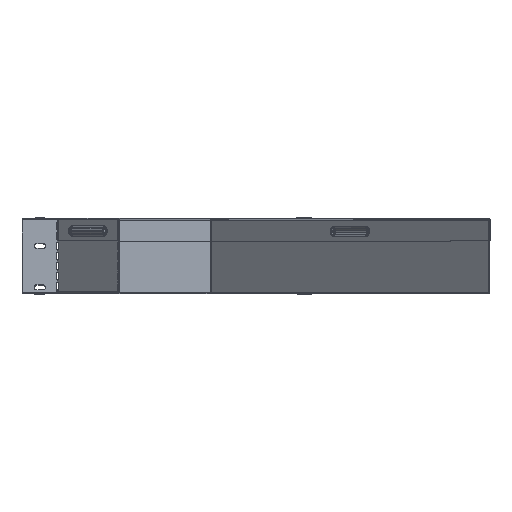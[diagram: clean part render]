
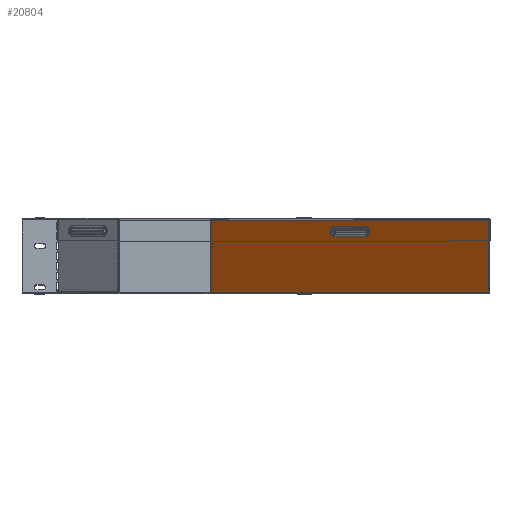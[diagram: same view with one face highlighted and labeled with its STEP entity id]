
A CAD part, top view. The second image highlights one B-rep face of the part: STEP entity #20804.
In plain terms, the highlighted planar face has unit normal (-0.707, 0, 0.707).
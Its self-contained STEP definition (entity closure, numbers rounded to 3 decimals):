
#43 = LINE ( 'NONE', #20308, #12756 ) ;
#541 = DIRECTION ( 'NONE',  ( 0.707, 0., 0.707 ) ) ;
#549 = ORIENTED_EDGE ( 'NONE', *, *, #3312, .F. ) ;
#1010 = PLANE ( 'NONE',  #16513 ) ;
#1339 = LINE ( 'NONE', #17731, #12998 ) ;
#1509 = CIRCLE ( 'NONE', #10832, 6.917 ) ;
#1863 = ORIENTED_EDGE ( 'NONE', *, *, #2911, .T. ) ;
#2230 = FACE_BOUND ( 'NONE', #5713, .T. ) ;
#2504 = DIRECTION ( 'NONE',  ( 0., 1., 0. ) ) ;
#2735 = EDGE_CURVE ( 'NONE', #20128, #15964, #20532, .T. ) ;
#2911 = EDGE_CURVE ( 'NONE', #20128, #5262, #13826, .T. ) ;
#3138 = CARTESIAN_POINT ( 'NONE',  ( 105.721, 83.1, -148.148 ) ) ;
#3312 = EDGE_CURVE ( 'NONE', #15964, #4494, #1339, .T. ) ;
#3823 = FACE_OUTER_BOUND ( 'NONE', #21986, .T. ) ;
#3876 = DIRECTION ( 'NONE',  ( 0., 1., 0. ) ) ;
#4067 = CARTESIAN_POINT ( 'NONE',  ( 105.721, 76.183, -148.148 ) ) ;
#4494 = VERTEX_POINT ( 'NONE', #18619 ) ;
#4955 = ORIENTED_EDGE ( 'NONE', *, *, #8252, .F. ) ;
#5262 = VERTEX_POINT ( 'NONE', #13137 ) ;
#5390 = CIRCLE ( 'NONE', #16475, 6.917 ) ;
#5435 = VERTEX_POINT ( 'NONE', #13271 ) ;
#5471 = EDGE_CURVE ( 'NONE', #20659, #5706, #1509, .T. ) ;
#5706 = VERTEX_POINT ( 'NONE', #4067 ) ;
#5713 = EDGE_LOOP ( 'NONE', ( #6281, #8164, #9300, #20323 ) ) ;
#6281 = ORIENTED_EDGE ( 'NONE', *, *, #5471, .F. ) ;
#6370 = CARTESIAN_POINT ( 'NONE',  ( 314.123, 1., 60.255 ) ) ;
#8164 = ORIENTED_EDGE ( 'NONE', *, *, #14845, .F. ) ;
#8165 = VECTOR ( 'NONE', #9013, 1000. ) ;
#8252 = EDGE_CURVE ( 'NONE', #4494, #5262, #20313, .T. ) ;
#8430 = ORIENTED_EDGE ( 'NONE', *, *, #2735, .F. ) ;
#9013 = DIRECTION ( 'NONE',  ( -0.707, 0., -0.707 ) ) ;
#9300 = ORIENTED_EDGE ( 'NONE', *, *, #9936, .F. ) ;
#9936 = EDGE_CURVE ( 'NONE', #13351, #5435, #5390, .T. ) ;
#10507 = DIRECTION ( 'NONE',  ( -0.707, 0., 0.707 ) ) ;
#10796 = CARTESIAN_POINT ( 'NONE',  ( 314.434, 1., 60.566 ) ) ;
#10832 = AXIS2_PLACEMENT_3D ( 'NONE', #3138, #18431, #14920 ) ;
#11006 = CARTESIAN_POINT ( 'NONE',  ( 148.148, 76.183, -105.721 ) ) ;
#11727 = VECTOR ( 'NONE', #14251, 1000. ) ;
#12756 = VECTOR ( 'NONE', #20377, 1000. ) ;
#12837 = CARTESIAN_POINT ( 'NONE',  ( 126.934, 0., -126.934 ) ) ;
#12998 = VECTOR ( 'NONE', #2504, 1000. ) ;
#13083 = EDGE_CURVE ( 'NONE', #5706, #13351, #43, .T. ) ;
#13137 = CARTESIAN_POINT ( 'NONE',  ( 314.123, 98.2, 60.255 ) ) ;
#13271 = CARTESIAN_POINT ( 'NONE',  ( 148.148, 90.017, -105.721 ) ) ;
#13351 = VERTEX_POINT ( 'NONE', #11006 ) ;
#13826 = LINE ( 'NONE', #15069, #14104 ) ;
#14091 = CARTESIAN_POINT ( 'NONE',  ( 126.934, 90.017, -126.934 ) ) ;
#14104 = VECTOR ( 'NONE', #18425, 1000. ) ;
#14251 = DIRECTION ( 'NONE',  ( -0.707, 0., -0.707 ) ) ;
#14435 = DIRECTION ( 'NONE',  ( 0.707, 0., 0.707 ) ) ;
#14845 = EDGE_CURVE ( 'NONE', #5435, #20659, #17204, .T. ) ;
#14920 = DIRECTION ( 'NONE',  ( 0., 1., 0. ) ) ;
#15069 = CARTESIAN_POINT ( 'NONE',  ( 314.123, 0., 60.255 ) ) ;
#15772 = CARTESIAN_POINT ( 'NONE',  ( 314.434, 98.2, 60.566 ) ) ;
#15964 = VERTEX_POINT ( 'NONE', #19537 ) ;
#16475 = AXIS2_PLACEMENT_3D ( 'NONE', #17565, #10507, #3876 ) ;
#16513 = AXIS2_PLACEMENT_3D ( 'NONE', #12837, #19730, #14435 ) ;
#17204 = LINE ( 'NONE', #14091, #8165 ) ;
#17565 = CARTESIAN_POINT ( 'NONE',  ( 148.148, 83.1, -105.721 ) ) ;
#17731 = CARTESIAN_POINT ( 'NONE',  ( -60.255, 0., -314.123 ) ) ;
#18425 = DIRECTION ( 'NONE',  ( 0., 1., 0. ) ) ;
#18431 = DIRECTION ( 'NONE',  ( -0.707, 0., 0.707 ) ) ;
#18619 = CARTESIAN_POINT ( 'NONE',  ( -60.255, 98.2, -314.123 ) ) ;
#19230 = CARTESIAN_POINT ( 'NONE',  ( 105.721, 90.017, -148.148 ) ) ;
#19487 = VECTOR ( 'NONE', #541, 1000. ) ;
#19537 = CARTESIAN_POINT ( 'NONE',  ( -60.255, 1., -314.123 ) ) ;
#19730 = DIRECTION ( 'NONE',  ( -0.707, 0., 0.707 ) ) ;
#20128 = VERTEX_POINT ( 'NONE', #6370 ) ;
#20308 = CARTESIAN_POINT ( 'NONE',  ( 126.934, 76.183, -126.934 ) ) ;
#20313 = LINE ( 'NONE', #15772, #19487 ) ;
#20323 = ORIENTED_EDGE ( 'NONE', *, *, #13083, .F. ) ;
#20377 = DIRECTION ( 'NONE',  ( 0.707, 0., 0.707 ) ) ;
#20532 = LINE ( 'NONE', #10796, #11727 ) ;
#20659 = VERTEX_POINT ( 'NONE', #19230 ) ;
#20804 = ADVANCED_FACE ( 'NONE', ( #2230, #3823 ), #1010, .T. ) ;
#21986 = EDGE_LOOP ( 'NONE', ( #8430, #1863, #4955, #549 ) ) ;
